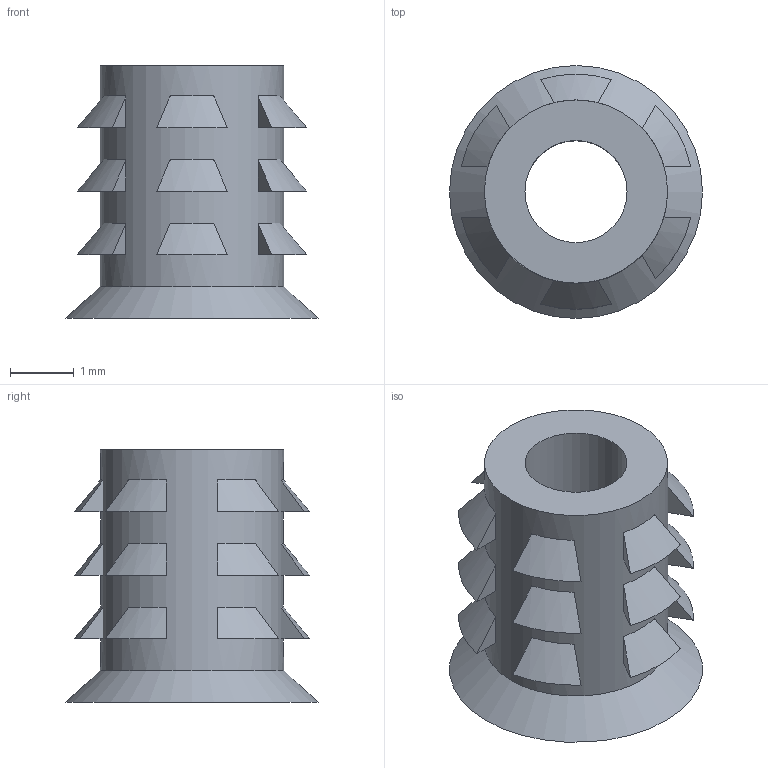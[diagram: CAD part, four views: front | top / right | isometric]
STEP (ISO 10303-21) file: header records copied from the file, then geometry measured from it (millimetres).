
FILE_DESCRIPTION (( 'STEP AP214' ), '1' );
FILE_NAME ('insert M2.STEP', '2017-08-09T10:52:34', ( '微软用户' ), ( '微软中国' ), 'SwSTEP 2.0', 'SolidWorks 2015', '' );
FILE_SCHEMA (( 'AUTOMOTIVE_DESIGN' ));
Length unit declared in the file: millimetre
Products named in the file (1): insert M2
Bounding box: 3.96 x 3.96 x 3.96 mm (x, y, z)
Volume: 20.5 mm3; surface area: 88.1 mm2
Topology: 1 solids, 1 shells, 78 faces, 172 edges, 114 vertices
Faces by surface type: plane 56, torus 19, cylinder 2, cone 1
Full cylindrical faces by diameter (mm): 1.6 x1, 2.87 x1
Entity records: 2238 total; most frequent: CARTESIAN_POINT 493, DIRECTION 350, ORIENTED_EDGE 336, EDGE_CURVE 168, AXIS2_PLACEMENT_3D 139, VERTEX_POINT 114, EDGE_LOOP 102, FACE_OUTER_BOUND 81
